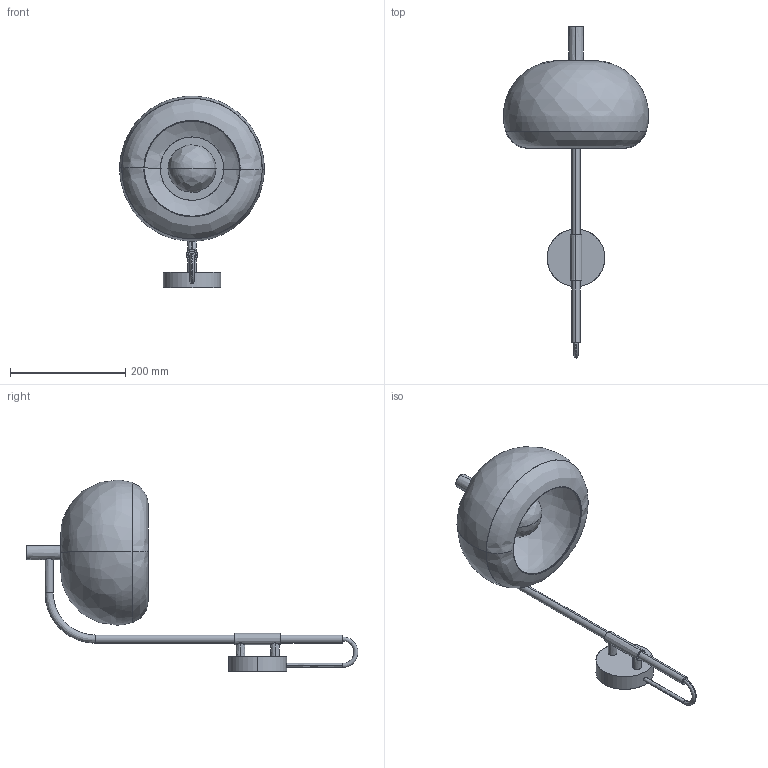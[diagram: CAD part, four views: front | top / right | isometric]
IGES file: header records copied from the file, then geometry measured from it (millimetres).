
Start section: SolidWorks IGES file using analytic representation for surfaces
Global section: file name: C:\Users\Agustin\Desktop\ARNOLD\SEPT 2025\2D-3D DEFINITIVO ONEDRIVE\2D-3D CLOUD_A1345\CLOUD_A1345.IGS; native system: SolidWorks 2018; preprocessor: SolidWorks 2018; author: Agustin; date: 250905.105250; units: millimetre
Bounding box: 251.86 x 575.8 x 332.9 mm (x, y, z)
Surface area: 393883.6 mm2 (no closed solid volume)
Topology: 0 solids, 0 shells, 62 faces, 1438 edges, 1436 vertices
Faces by surface type: bspline 35, revolution 27
